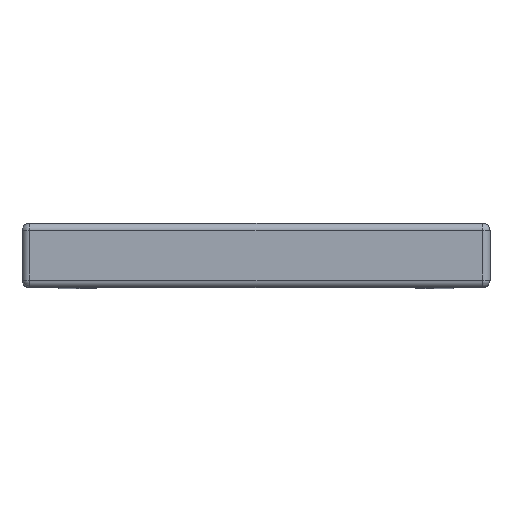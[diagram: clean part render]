
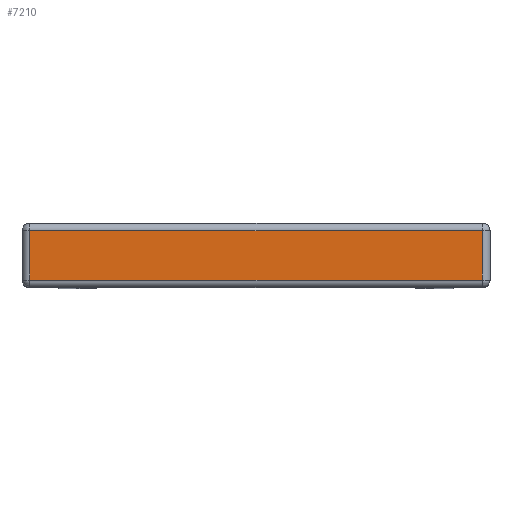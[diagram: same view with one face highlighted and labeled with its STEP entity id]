
A CAD part, top view. The second image highlights one B-rep face of the part: STEP entity #7210.
In plain terms, the highlighted planar face has unit normal (0, 0, 1).
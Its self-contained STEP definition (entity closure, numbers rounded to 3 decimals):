
#165=DIRECTION('',(1.,0.,0.));
#166=VECTOR('',#165,11.95);
#167=CARTESIAN_POINT('',(1.04,-0.26,6.9));
#168=LINE('',#167,#166);
#836=DIRECTION('',(-1.,0.,0.));
#837=VECTOR('',#836,11.95);
#838=CARTESIAN_POINT('',(12.99,1.04,6.9));
#839=LINE('',#838,#837);
#1033=DIRECTION('',(0.,-1.,0.));
#1034=VECTOR('',#1033,1.3);
#1035=CARTESIAN_POINT('',(1.04,1.04,6.9));
#1036=LINE('',#1035,#1034);
#2506=DIRECTION('',(0.,1.,0.));
#2507=VECTOR('',#2506,1.3);
#2508=CARTESIAN_POINT('',(12.99,-0.26,6.9));
#2509=LINE('',#2508,#2507);
#2974=CARTESIAN_POINT('',(1.04,-0.26,6.9));
#2975=VERTEX_POINT('',#2974);
#2976=CARTESIAN_POINT('',(12.99,-0.26,6.9));
#2977=VERTEX_POINT('',#2976);
#3219=CARTESIAN_POINT('',(12.99,1.04,6.9));
#3220=VERTEX_POINT('',#3219);
#3221=CARTESIAN_POINT('',(1.04,1.04,6.9));
#3222=VERTEX_POINT('',#3221);
#7199=CARTESIAN_POINT('',(7.015,0.39,6.9));
#7200=DIRECTION('',(0.,0.,1.));
#7201=DIRECTION('',(1.,0.,0.));
#7202=AXIS2_PLACEMENT_3D('',#7199,#7200,#7201);
#7203=PLANE('',#7202);
#7204=ORIENTED_EDGE('',*,*,#3921,.F.);
#7205=ORIENTED_EDGE('',*,*,#4900,.F.);
#7206=ORIENTED_EDGE('',*,*,#4662,.F.);
#7207=ORIENTED_EDGE('',*,*,#7179,.F.);
#7208=EDGE_LOOP('',(#7204,#7205,#7206,#7207));
#7209=FACE_OUTER_BOUND('',#7208,.F.);
#7210=ADVANCED_FACE('',(#7209),#7203,.T.);
#3921=EDGE_CURVE('',#2975,#2977,#168,.T.);
#4662=EDGE_CURVE('',#3220,#3222,#839,.T.);
#4900=EDGE_CURVE('',#3222,#2975,#1036,.T.);
#7179=EDGE_CURVE('',#2977,#3220,#2509,.T.);
